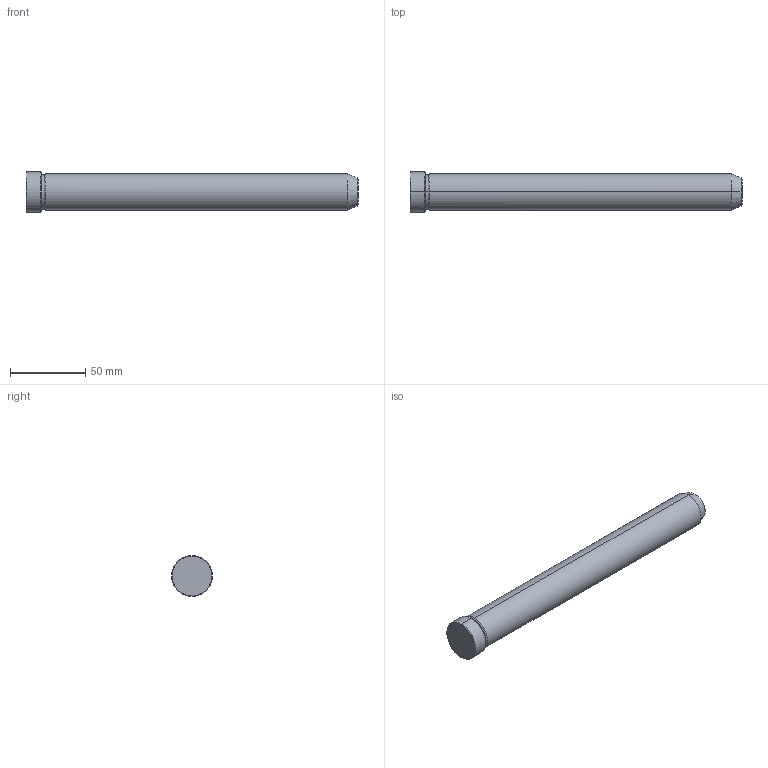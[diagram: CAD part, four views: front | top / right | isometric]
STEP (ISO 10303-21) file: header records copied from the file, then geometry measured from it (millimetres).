
FILE_DESCRIPTION(('CATIA V5 STEP Exchange'),'2;1');
FILE_NAME('C:\Users\Utente\Desktop\IO LAVORO\3D X SITO CF\X SITO\PLASTICA\549\549-24X220.stp','2021-12-13T13:21:04+00:00',('none'),('none'),'CATIA Version 5 Release 20 GA (IN-10)','CATIA V5 STEP AP203','none');
FILE_SCHEMA(('CONFIG_CONTROL_DESIGN'));
Length unit declared in the file: millimetre
Products named in the file (1): 549-24X220
Bounding box: 220 x 27 x 27 mm (x, y, z)
Volume: 99937.5 mm3; surface area: 17612.8 mm2
Topology: 1 solids, 1 shells, 19 faces, 56 edges, 40 vertices
Faces by surface type: cone 8, cylinder 6, plane 3, torus 2
Entity records: 736 total; most frequent: CARTESIAN_POINT 192, ORIENTED_EDGE 112, DIRECTION 86, EDGE_CURVE 56, AXIS2_PLACEMENT_3D 54, VERTEX_POINT 40, CIRCLE 34, EDGE_LOOP 20
